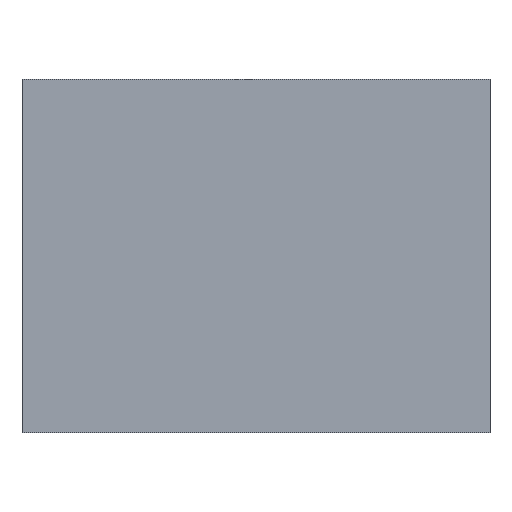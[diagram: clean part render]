
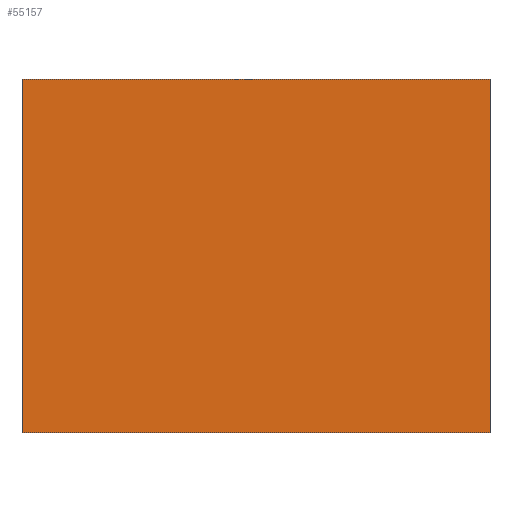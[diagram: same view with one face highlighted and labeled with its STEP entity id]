
A CAD part, front view. The second image highlights one B-rep face of the part: STEP entity #55157.
In plain terms, the highlighted planar face has unit normal (0, -1, 0).
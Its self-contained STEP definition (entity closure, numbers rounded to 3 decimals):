
#26268 = CARTESIAN_POINT ( 'NONE',  ( 58.742, 102.277, 0. ) ) ;
#26270 = CARTESIAN_POINT ( 'NONE',  ( 323.742, 102.277, 0. ) ) ;
#26275 = CARTESIAN_POINT ( 'NONE',  ( 58.742, 102.277, 200. ) ) ;
#26277 = CARTESIAN_POINT ( 'NONE',  ( 323.742, 102.277, 200. ) ) ;
#37448 = AXIS2_PLACEMENT_3D ( 'NONE', #51064, #51075, #51076 ) ;
#44225 = VERTEX_POINT ( 'NONE', #26268 ) ;
#44229 = VERTEX_POINT ( 'NONE', #26270 ) ;
#44239 = VERTEX_POINT ( 'NONE', #26275 ) ;
#44242 = VERTEX_POINT ( 'NONE', #26277 ) ;
#49155 = FACE_OUTER_BOUND ( 'NONE', #57288, .T. ) ;
#51062 = PLANE ( 'NONE',  #37448 ) ;
#51064 = CARTESIAN_POINT ( 'NONE',  ( 0., 102.277, 200. ) ) ;
#51075 = DIRECTION ( 'NONE',  ( 0., -1., 0. ) ) ;
#51076 = DIRECTION ( 'NONE',  ( 0., 0., -1. ) ) ;
#55157 = ADVANCED_FACE ( 'NONE', ( #49155 ), #51062, .T. ) ;
#57288 = EDGE_LOOP ( 'NONE', ( #73165, #73167, #73169, #73171 ) ) ;
#63301 = LINE ( 'NONE', #64427, #63304 ) ;
#63303 = LINE ( 'NONE', #64422, #63312 ) ;
#63304 = VECTOR ( 'NONE', #64429, 1000. ) ;
#63305 = LINE ( 'NONE', #64431, #63308 ) ;
#63307 = LINE ( 'NONE', #64433, #63310 ) ;
#63308 = VECTOR ( 'NONE', #64432, 1000. ) ;
#63310 = VECTOR ( 'NONE', #64435, 1000. ) ;
#63312 = VECTOR ( 'NONE', #64436, 1000. ) ;
#64422 = CARTESIAN_POINT ( 'NONE',  ( 0., 102.277, 200. ) ) ;
#64427 = CARTESIAN_POINT ( 'NONE',  ( 58.742, 102.277, 200. ) ) ;
#64429 = DIRECTION ( 'NONE',  ( 0., 0., -1. ) ) ;
#64431 = CARTESIAN_POINT ( 'NONE',  ( 0., 102.277, 0. ) ) ;
#64432 = DIRECTION ( 'NONE',  ( -1., 0., 0. ) ) ;
#64433 = CARTESIAN_POINT ( 'NONE',  ( 323.742, 102.277, 200. ) ) ;
#64435 = DIRECTION ( 'NONE',  ( 0., 0., -1. ) ) ;
#64436 = DIRECTION ( 'NONE',  ( -1., 0., 0. ) ) ;
#72617 = EDGE_CURVE ( 'NONE', #44239, #44225, #63301, .T. ) ;
#72619 = EDGE_CURVE ( 'NONE', #44229, #44225, #63305, .T. ) ;
#72620 = EDGE_CURVE ( 'NONE', #44242, #44229, #63307, .T. ) ;
#72621 = EDGE_CURVE ( 'NONE', #44242, #44239, #63303, .T. ) ;
#73165 = ORIENTED_EDGE ( 'NONE', *, *, #72619, .F. ) ;
#73167 = ORIENTED_EDGE ( 'NONE', *, *, #72620, .F. ) ;
#73169 = ORIENTED_EDGE ( 'NONE', *, *, #72621, .T. ) ;
#73171 = ORIENTED_EDGE ( 'NONE', *, *, #72617, .T. ) ;
